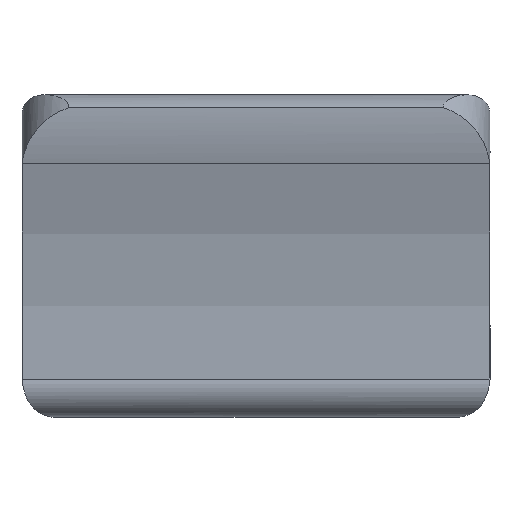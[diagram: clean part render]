
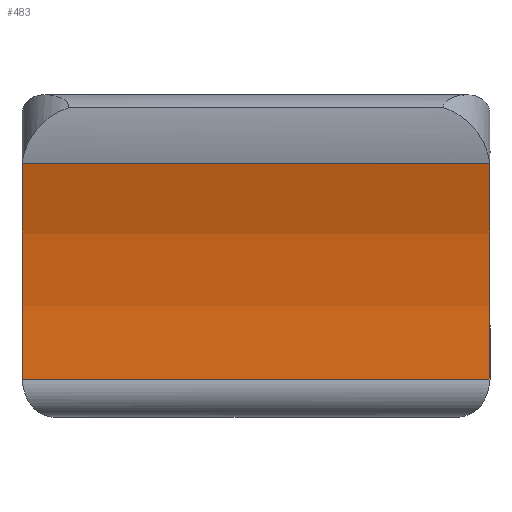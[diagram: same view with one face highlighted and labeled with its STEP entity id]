
A CAD part, front view. The second image highlights one B-rep face of the part: STEP entity #483.
In plain terms, the highlighted cylindrical face has radius 35.675 mm (diameter 71.349 mm), a partial arc.
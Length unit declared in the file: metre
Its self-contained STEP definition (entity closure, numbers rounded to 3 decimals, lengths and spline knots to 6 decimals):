
#26=CYLINDRICAL_SURFACE('',#537,0.035675);
#63=LINE('',#800,#108);
#72=LINE('',#852,#117);
#108=VECTOR('',#621,1.);
#117=VECTOR('',#648,1.);
#206=ORIENTED_EDGE('',*,*,#264,.T.);
#207=ORIENTED_EDGE('',*,*,#298,.T.);
#208=ORIENTED_EDGE('',*,*,#306,.T.);
#209=ORIENTED_EDGE('',*,*,#313,.F.);
#264=EDGE_CURVE('',#332,#331,#368,.T.);
#298=EDGE_CURVE('',#331,#355,#63,.T.);
#306=EDGE_CURVE('',#355,#361,#375,.T.);
#313=EDGE_CURVE('',#332,#361,#72,.T.);
#331=VERTEX_POINT('',#709);
#332=VERTEX_POINT('',#711);
#355=VERTEX_POINT('',#777);
#361=VERTEX_POINT('',#814);
#368=CIRCLE('',#512,0.035675);
#375=CIRCLE('',#530,0.035675);
#400=EDGE_LOOP('',(#206,#207,#208,#209));
#435=FACE_BOUND('',#400,.T.);
#483=ADVANCED_FACE('',(#435),#26,.F.);
#512=AXIS2_PLACEMENT_3D('',#710,#567,#568);
#530=AXIS2_PLACEMENT_3D('',#815,#634,#635);
#537=AXIS2_PLACEMENT_3D('',#856,#653,#654);
#567=DIRECTION('',(1.,0.,0.));
#568=DIRECTION('',(0.,0.,-1.));
#621=DIRECTION('',(-1.,0.,0.));
#634=DIRECTION('',(-1.,0.,0.));
#635=DIRECTION('',(0.,0.941,0.338));
#648=DIRECTION('',(-1.,0.,0.));
#653=DIRECTION('',(-1.,0.,0.));
#654=DIRECTION('',(0.,0.,1.));
#709=CARTESIAN_POINT('',(-0.067028,-0.01159,-0.028742));
#710=CARTESIAN_POINT('',(-0.067028,-0.045161,-0.040811));
#711=CARTESIAN_POINT('',(-0.067028,-0.009529,-0.042563));
#777=CARTESIAN_POINT('',(-0.097028,-0.01159,-0.028742));
#800=CARTESIAN_POINT('',(-0.065028,-0.01159,-0.028742));
#814=CARTESIAN_POINT('',(-0.097028,-0.009529,-0.042563));
#815=CARTESIAN_POINT('',(-0.097028,-0.045161,-0.040811));
#852=CARTESIAN_POINT('',(-0.065028,-0.009529,-0.042563));
#856=CARTESIAN_POINT('',(-0.065028,-0.045161,-0.040811));
